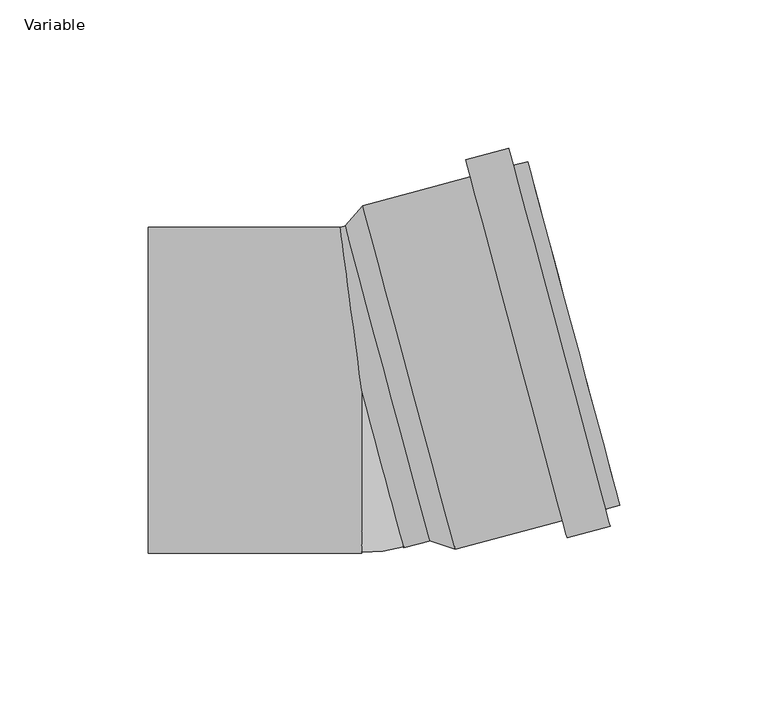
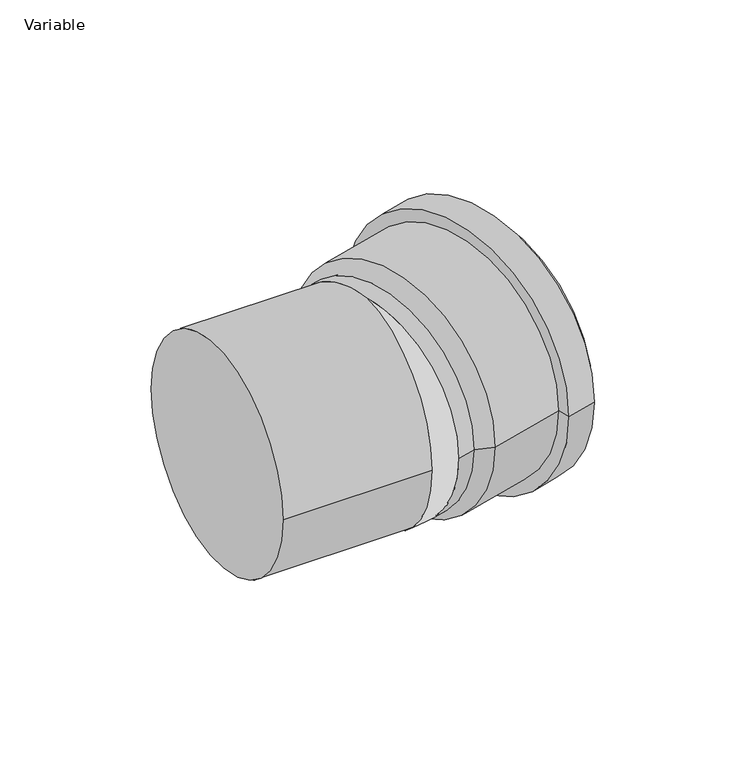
"""IFC4 building model written with IfcOpenShell, lengths in millimetres: pipe fitting geometry, AliaxisFR_Friaphon_ElbowMF_FR : Variable."""

from ifc_helpers import new_model, si_unit, point, frame, origin, place, context, project, spatial, polyline, circle_curve, ellipse_curve, trimmed, source, transform, mapped, element, save
from ifc_brep_helpers import plane_surface, cylinder_surface, revolved_surface, advanced_brep


def variable_d524e0e4(model_context):
    return source(origin(), model_context, "Body", "AdvancedBrep", [
        advanced_brep(
        [(87.0076539, -38.8029402, 0.0), (55.9493684, 77.1081589, 0.0), (57.2434637, 72.2785298, 0.0), (85.7135586, -33.9733111, 0.0), (69.2420516, -49.7748761, 0.0), (35.0779376, 77.727333, 0.0), (49.566825, 81.6096186, 0.0), (83.730939, -45.8925904, 0.0), (67.6891373, -43.9793211, 0.0), (36.6308519, 71.931778, 0.0), (31.4669188, -53.6850353, 0.0), (0.4086334, 62.2260638, 0.0), (-5.541715, 55.4552919, 0.0), (22.9283799, -50.796549, 0.0), (82.1780247, -40.0970355, 0.0), (51.1197393, 75.8140637, 0.0)],
        [
            (0, 1, circle_curve(frame((71.4785111, 19.1526093, 0.0), z_axis=(0.9659258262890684, 0.25881904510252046, 0.0), x_axis=(-0.25881904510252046, 0.9659258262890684, 0.0)), 60.0)),
            (1, 2),
            (2, 3, circle_curve(frame((71.4785111, 19.1526093, 0.0), z_axis=(-0.9659258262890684, -0.25881904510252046, 0.0), x_axis=(-0.25881904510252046, 0.9659258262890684, 0.0)), 55.0)),
            (3, 0),
            (1, 0, circle_curve(frame((71.4785111, 19.1526093, 0.0), z_axis=(0.9659258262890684, 0.25881904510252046, 0.0), x_axis=(-0.25881904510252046, 0.9659258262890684, 0.0)), 60.0)),
            (3, 2, circle_curve(frame((71.4785111, 19.1526093, 0.0), z_axis=(-0.9659258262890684, -0.25881904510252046, 0.0), x_axis=(-0.25881904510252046, 0.9659258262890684, 0.0)), 55.0)),
            (4, 5, circle_curve(frame((52.1599946, 13.9762284, 0.0), z_axis=(0.9659258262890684, 0.25881904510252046, 0.0), x_axis=(-0.25881904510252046, 0.9659258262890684, 0.0)), 66.0)),
            (5, 6),
            (6, 7, circle_curve(frame((66.648882, 17.8585141, 0.0), z_axis=(-0.9659258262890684, -0.25881904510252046, 0.0), x_axis=(-0.25881904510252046, 0.9659258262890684, 0.0)), 66.0)),
            (7, 4),
            (5, 4, circle_curve(frame((52.1599946, 13.9762284, 0.0), z_axis=(0.9659258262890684, 0.25881904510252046, 0.0), x_axis=(-0.25881904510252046, 0.9659258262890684, 0.0)), 66.0)),
            (7, 6, circle_curve(frame((66.648882, 17.8585141, 0.0), z_axis=(-0.9659258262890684, -0.25881904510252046, 0.0), x_axis=(-0.25881904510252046, 0.9659258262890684, 0.0)), 66.0)),
            (8, 9, circle_curve(frame((52.1599946, 13.9762284, 0.0), z_axis=(0.9659258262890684, 0.25881904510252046, 0.0), x_axis=(-0.25881904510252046, 0.9659258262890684, 0.0)), 60.0)),
            (9, 5),
            (4, 8),
            (9, 8, circle_curve(frame((52.1599946, 13.9762284, 0.0), z_axis=(0.9659258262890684, 0.25881904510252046, 0.0), x_axis=(-0.25881904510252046, 0.9659258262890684, 0.0)), 60.0)),
            (10, 11, circle_curve(frame((15.9377761, 4.2705142, 0.0), z_axis=(0.9659258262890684, 0.25881904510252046, 0.0), x_axis=(-0.25881904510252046, 0.9659258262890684, 0.0)), 60.0)),
            (11, 9),
            (8, 10),
            (11, 10, circle_curve(frame((15.9377761, 4.2705142, 0.0), z_axis=(0.9659258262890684, 0.25881904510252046, 0.0), x_axis=(-0.25881904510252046, 0.9659258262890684, 0.0)), 60.0)),
            (2, 12),
            (12, 13, circle_curve(frame((8.6933324, 2.3293714, 0.0), z_axis=(-0.9659258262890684, -0.25881904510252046, 0.0), x_axis=(-0.25881904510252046, 0.9659258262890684, 0.0)), 55.0)),
            (13, 3),
            (13, 12, circle_curve(frame((8.6933324, 2.3293714, 0.0), z_axis=(-0.9659258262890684, -0.25881904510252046, 0.0), x_axis=(-0.25881904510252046, 0.9659258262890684, 0.0)), 55.0)),
            (12, 11),
            (10, 13),
            (14, 15, circle_curve(frame((66.648882, 17.8585141, 0.0), z_axis=(0.9659258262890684, 0.25881904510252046, 0.0), x_axis=(-0.25881904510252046, 0.9659258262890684, 0.0)), 60.0)),
            (15, 1),
            (0, 14),
            (15, 14, circle_curve(frame((66.648882, 17.8585141, 0.0), z_axis=(0.9659258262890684, 0.25881904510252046, 0.0), x_axis=(-0.25881904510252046, 0.9659258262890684, 0.0)), 60.0)),
            (6, 15),
            (14, 7),
        ],
        [
            plane_surface(frame((71.4785111, 19.1526093, 0.0), z_axis=(0.9659258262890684, 0.25881904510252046, 0.0), x_axis=(-0.25881904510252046, 0.9659258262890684, 0.0))),
            cylinder_surface(frame((8.6933324, 2.3293714, 0.0), z_axis=(-0.9659258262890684, -0.25881904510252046, 0.0), x_axis=(-0.25881904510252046, 0.9659258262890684, 0.0)), 66.0),
            plane_surface(frame((52.1599946, 13.9762284, 0.0), z_axis=(-0.9659258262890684, -0.25881904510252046, 0.0), x_axis=(-0.25881904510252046, 0.9659258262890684, 0.0))),
            cylinder_surface(frame((8.6933324, 2.3293714, 0.0), z_axis=(-0.9659258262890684, -0.25881904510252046, 0.0), x_axis=(-0.25881904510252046, 0.9659258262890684, 0.0)), 60.0),
            revolved_surface(polyline([(-5.541715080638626, 55.45529184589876, 0.0), (57.24346370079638, 72.27852979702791, 0.0)]), (8.6933324, 2.3293714, 0.0), (-0.9659258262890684, -0.25881904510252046, 0.0)),
            revolved_surface(polyline([(0.4086334, 62.2260638, 0.0), (-5.541715, 55.4552919, 0.0)]), (8.6933324, 2.3293714, 0.0), (-0.9659258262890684, -0.25881904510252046, 0.0)),
            plane_surface(frame((66.648882, 17.8585141, 0.0), z_axis=(0.9659258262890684, 0.25881904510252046, 0.0), x_axis=(-0.25881904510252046, 0.9659258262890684, 0.0))),
        ],
        [
            (0, [[1, 2, 3, 4]]),
            (0, [[5, -4, 6, -2]]),
            (1, [[7, 8, 9, 10]]),
            (1, [[11, -10, 12, -8]]),
            (2, [[13, 14, -7, 15]]),
            (2, [[16, -15, -11, -14]]),
            (3, [[17, 18, -13, 19]]),
            (3, [[20, -19, -16, -18]]),
            (4, [[-3, 21, 22, 23]]),
            (4, [[-6, -23, 24, -21]]),
            (5, [[-22, 25, -17, 26]]),
            (5, [[-24, -26, -20, -25]]),
            (3, [[27, 28, -1, 29]]),
            (3, [[30, -29, -5, -28]]),
            (6, [[-9, 31, -27, 32]]),
            (6, [[-12, -32, -30, -31]]),
        ],
    ),
        advanced_brep(
        [(-0.7120859, 56.7493871, 0.0), (27.758009, -49.5024538, 0.0), (14.2350475, -53.1259204, 0.0), (-7.2408874, 55.0, 0.0), (0.0, 0.0, 55.0), (0.0, 0.0, -55.0), (-72.0, -55.0, 0.0), (-72.0, 55.0, 0.0), (0.0, -55.0, 0.0)],
        [
            (0, 1, circle_curve(frame((13.5229616, 3.6234666, 0.0), z_axis=(0.9659258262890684, 0.2588190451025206, 0.0), x_axis=(-0.2588190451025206, 0.9659258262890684, 0.0)), 55.0)),
            (1, 0, circle_curve(frame((13.5229616, 3.6234666, 0.0), z_axis=(0.9659258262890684, 0.2588190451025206, 0.0), x_axis=(-0.2588190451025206, 0.9659258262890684, 0.0)), 55.0)),
            (2, 1),
            (0, 3),
            (3, 4, ellipse_curve(frame((0.0, 0.0, 0.0), z_axis=(0.9914448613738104, 0.1305261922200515, 0.0), x_axis=(0.13052619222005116, -0.9914448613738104, 0.0)), 55.4745928, 55.0)),
            (4, 2, circle_curve(frame((0.0, 0.0, 0.0), z_axis=(0.9659258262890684, 0.2588190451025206, 0.0), x_axis=(-0.2588190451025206, 0.9659258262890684, 0.0)), 55.0)),
            (2, 5, circle_curve(frame((0.0, 0.0, 0.0), z_axis=(0.9659258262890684, 0.2588190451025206, 0.0), x_axis=(-0.2588190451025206, 0.9659258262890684, 0.0)), 55.0)),
            (5, 3, ellipse_curve(frame((0.0, 0.0, 0.0), z_axis=(0.9914448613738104, 0.1305261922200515, 0.0), x_axis=(0.13052619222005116, -0.9914448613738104, 0.0)), 55.4745928, 55.0)),
            (6, 7, circle_curve(frame((-72.0, 0.0, 0.0), z_axis=(-1.0, 0.0, 0.0), x_axis=(0.0, 1.0, 0.0)), 55.0)),
            (7, 6, circle_curve(frame((-72.0, 0.0, 0.0), z_axis=(-1.0, 0.0, 0.0), x_axis=(0.0, 1.0, 0.0)), 55.0)),
            (6, 8),
            (8, 4, circle_curve(frame((0.0, 0.0, 0.0), z_axis=(-1.0, 0.0, 0.0), x_axis=(0.0, 1.0, 0.0)), 55.0)),
            (3, 7),
            (5, 8, circle_curve(frame((0.0, 0.0, 0.0), z_axis=(-1.0, 0.0, 0.0), x_axis=(0.0, 1.0, 0.0)), 55.0)),
        ],
        [
            plane_surface(frame((13.5229616, 3.6234666, 0.0), z_axis=(0.9659258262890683, 0.2588190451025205, 0.0), x_axis=(0.0, 0.0, 1.0))),
            cylinder_surface(frame((0.0, 0.0, 0.0), z_axis=(-0.9659258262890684, -0.2588190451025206, 0.0), x_axis=(-0.2588190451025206, 0.9659258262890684, 0.0)), 55.0),
            plane_surface(frame((-72.0, 0.0, 0.0), z_axis=(-1.0, 0.0, 0.0), x_axis=(0.0, 0.0, 1.0))),
            cylinder_surface(frame((-72.0, 0.0, 0.0), z_axis=(-1.0, 0.0, 0.0), x_axis=(0.0, 1.0, 0.0)), 55.0),
            revolved_surface(trimmed(ellipse_curve(frame((0.0, 0.0, 0.0), z_axis=(0.9659258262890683, 0.2588190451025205, 0.0), x_axis=(-0.2588190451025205, 0.9659258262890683, 0.0)), 55.0, 55.0), [point((0.0, 0.0, 55.0))], [point((0.0, 0.0, -55.0))], True, "CARTESIAN"), (0.0, 0.0, 55.0), (0.0, 0.0, -1.0)),
        ],
        [
            (0, [[1, 2]]),
            (1, [[3, -1, 4, 5, 6]]),
            (1, [[-2, -3, 7, 8, -4]]),
            (2, [[9, 10]]),
            (3, [[-9, 11, 12, -5, 13]]),
            (3, [[-10, -13, -8, 14, -11]]),
            (4, [[-12, -14, -7, -6]]),
        ],
    ),
    ])


if __name__ == "__main__":
    model = new_model("IFC4")
    model_context = context("Model", 3, world=origin())
    ifc_project = project(units=[si_unit("LENGTHUNIT", "METRE", prefix="MILLI")], contexts=[model_context])
    site = spatial("IfcSite", under=ifc_project)
    building = spatial("IfcBuilding", under=site)
    placement = place(None, origin())
    variable_shape = variable_d524e0e4(model_context)
    element("IfcPipeFitting", 1, ObjectType="AliaxisFR_Friaphon_ElbowMF_FR : Variable", at=placement, inside=building, context=model_context, shape_type="MappedRepresentation", body=[
        mapped(variable_shape, transform((0.0, 0.0, 0.0), x_axis=(1.0, 0.0, 0.0), y_axis=(0.0, 1.0, 0.0), z_axis=(0.0, 0.0, 1.0))),
    ])
    save(model, "model.ifc")
